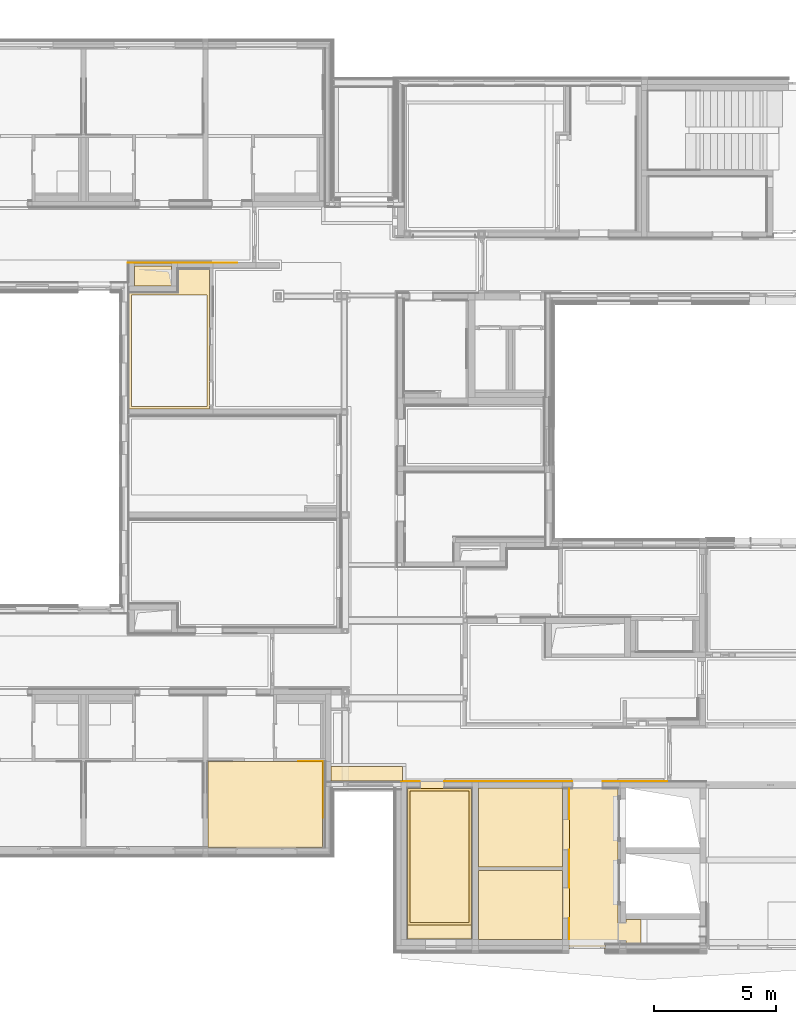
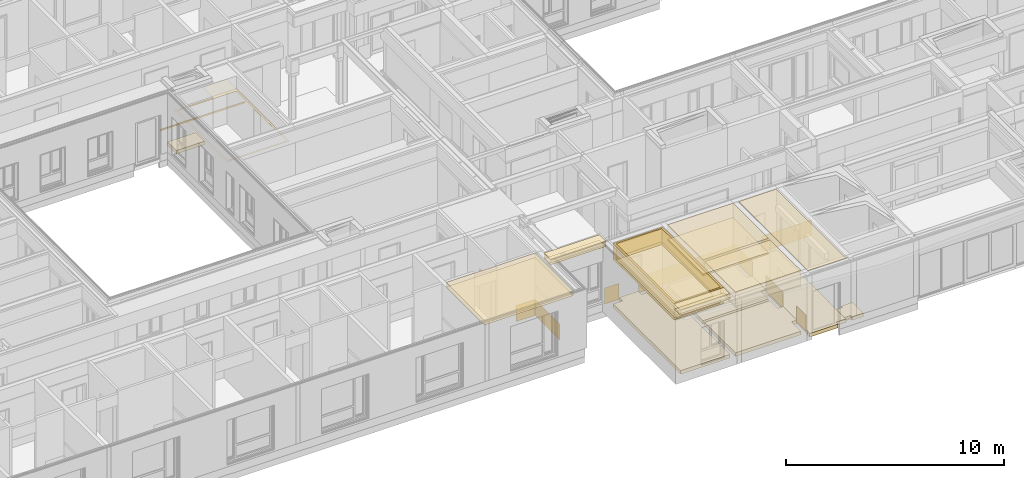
# One storey, part 165 of 207: 38 coverings.
"""IFC4 building model written with IfcOpenShell, lengths in metres."""

from ifc_helpers import new_model, entity, si_unit, converted_unit, derived_unit, frame, frame_2d, origin, origin_with_axes, place, context, subcontext, project, spatial, polyline, rectangle, outline, extrude, material, layer, layer_set, layer_usage, element, save


model = new_model("IFC4")

# Units and contexts
model_context = context("Model", 3, precision=1e-05, world=origin())
body_context = subcontext(model_context, "Body", "Model", "MODEL_VIEW")
ifc_project = project(units=[si_unit("LENGTHUNIT", "METRE"), si_unit("AREAUNIT", "SQUARE_METRE"), si_unit("VOLUMEUNIT", "CUBIC_METRE"), si_unit("MASSUNIT", "GRAM", prefix="KILO"), converted_unit("PLANEANGLEUNIT", "DEGREE", entity("IfcPlaneAngleMeasure", 0.0174532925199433), si_unit("PLANEANGLEUNIT", "RADIAN"), dimensions=[0, 0, 0, 0, 0, 0, 0]), derived_unit("THERMALTRANSMITTANCEUNIT", [(si_unit("POWERUNIT", "WATT"), 1), (si_unit("THERMODYNAMICTEMPERATUREUNIT", "KELVIN"), -1), (si_unit("LENGTHUNIT", "METRE"), -2)]), derived_unit("VOLUMETRICFLOWRATEUNIT", [(si_unit("LENGTHUNIT", "METRE"), 3), (converted_unit("TIMEUNIT", "hour", entity("IfcTimeMeasure", 3600.0), si_unit("TIMEUNIT", "SECOND"), dimensions=[0, 0, 1, 0, 0, 0, 0]), -1), (si_unit("LENGTHUNIT", "METRE"), -1)])], contexts=[model_context])

# Site, building, storey
site_placement = place(None, origin())
site = spatial("IfcSite", under=ifc_project, at=site_placement, Name="Psychiatrie Neubau Wunstorf", CompositionType="ELEMENT")
building_placement = place(site_placement, origin())
building = spatial("IfcBuilding", under=site, at=building_placement, Name="Neubau H2 Stationsgebäude", CompositionType="ELEMENT")
storey_placement = place(building_placement, frame((0.0, 0.0, -0.2)))
storey = spatial("IfcBuildingStorey", under=building, at=storey_placement, Name="H2 Ebene 0", CompositionType="ELEMENT", Elevation=-0.2)

# Covering
ifc_material_1 = material(Name="SE")
ifc_layer_1 = layer(ifc_material_1, 0.19)
ifc_layer_set_1 = layer_set([ifc_layer_1])
ifc_layer_usage_1 = layer_usage(ifc_layer_set_1, "AXIS3", "POSITIVE", 0.0)
covering_1_placement = place(storey_placement, frame((27.1, 20.875, 0.0)))
element("IfcCovering", 1, at=covering_1_placement, inside=storey, material=ifc_layer_usage_1, Name="Estrich", PredefinedType="FLOORING", context=body_context, shape_type="SweptSolid", body=[
    extrude(rectangle(XDim=0.811, YDim=1.5, at=frame_2d((0.75, -0.4055), x_axis=(0.0, -1.0))), frame((0.0, 0.811, 0.0), z_axis=(0.0, 0.0, 1.0), x_axis=(1.0, 0.0, 0.0)), (0.0, 0.0, 1.0), 0.19),
])

# Space
space_1_placement = place(storey_placement, frame((0.169000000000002, 21.036, 0.0)))
space_1 = spatial("IfcSpace", under=storey, at=space_1_placement, Name="WUN-H2-E00-F06", CompositionType="ELEMENT")

# Covering
ifc_material_2 = material(Name="97")
ifc_layer_2 = layer(ifc_material_2, 0.001)
ifc_layer_set_2 = layer_set([ifc_layer_2])
ifc_layer_usage_2 = layer_usage(ifc_layer_set_2, "AXIS3", "POSITIVE", 0.0)
covering_2_placement = place(space_1_placement, frame((26.651, 0.800000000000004, 0.8)))
element("IfcCovering", 2, at=covering_2_placement, inside=space_1, material=ifc_layer_usage_2, Name="Handlauf", PredefinedType="CLADDING", context=body_context, shape_type="SweptSolid", body=[
    extrude(rectangle(XDim=4.47800000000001, YDim=0.1, at=frame_2d((-2.239, 0.05), x_axis=(-1.0, 0.0))), frame((4.47800000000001, 0.0, 0.1), z_axis=(0.0, 1.0, 0.0), x_axis=(1.0, 0.0, 0.0)), (0.0, 0.0, 1.0), 0.001),
])

# Space
space_2_placement = place(storey_placement, frame((44.941004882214, -6.1210003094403, 0.0)))
space_2 = spatial("IfcSpace", under=storey, at=space_2_placement, Name="WUN-H2-E00-F02", CompositionType="ELEMENT")

# Coverings
ifc_material_3 = material(Name="Ku1")
ifc_layer_3 = layer(ifc_material_3, 0.2)
ifc_layer_set_3 = layer_set([ifc_layer_3])
ifc_layer_usage_3 = layer_usage(ifc_layer_set_3, "AXIS3", "POSITIVE", 0.0)
covering_3_placement = place(space_2_placement, frame((-0.0250000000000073, -0.185500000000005, 0.0)))
element("IfcCovering", 3, at=covering_3_placement, inside=space_2, material=ifc_layer_usage_3, Name="PVC Bahnenware Holzoptik", PredefinedType="FLOORING", context=body_context, shape_type="SweptSolid", body=[
    extrude(rectangle(XDim=1.50002570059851, YDim=0.185500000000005, at=frame_2d((-0.750012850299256, -0.0927500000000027), x_axis=(-1.0, 0.0))), frame((1.50002570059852, 0.185500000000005, 0.0), z_axis=(0.0, 0.0, 1.0), x_axis=(1.0, 0.0, 0.0)), (0.0, 0.0, 1.0), 0.2),
    extrude(rectangle(XDim=0.015, YDim=1.84, at=frame_2d((-0.0075, -0.92), x_axis=(-1.0, 0.0))), frame((2.03900000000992, 3.61651220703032, 0.0), z_axis=(0.0, 0.0, 1.0), x_axis=(1.0, 0.0, 0.0)), (0.0, 0.0, 1.0), 0.2),
    extrude(rectangle(XDim=0.0149999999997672, YDim=1.84, at=frame_2d((-0.00749999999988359, -0.92), x_axis=(-1.0, 0.0))), frame((2.03900000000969, 6.23914812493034, 0.0), z_axis=(0.0, 0.0, 1.0), x_axis=(1.0, 0.0, 0.0)), (0.0, 0.0, 1.0), 0.2),
    extrude(rectangle(XDim=1.99900000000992, YDim=6.3710003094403, at=frame_2d((0.999500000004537, 3.18550015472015), x_axis=(1.0, 0.0))), frame((0.0250000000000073, 0.185500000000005, 0.0), z_axis=(0.0, 0.0, 1.0), x_axis=(1.0, 0.0, 0.0)), (0.0, 0.0, 1.0), 0.2),
])
ifc_material_4 = material(Name="84")
ifc_layer_4 = layer(ifc_material_4, 0.001)
ifc_layer_set_4 = layer_set([ifc_layer_4])
ifc_layer_usage_4 = layer_usage(ifc_layer_set_4, "AXIS3", "POSITIVE", 0.0)
covering_4_placement = place(space_2_placement, frame((0.0, 0.175999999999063, 0.1)))
element("IfcCovering", 4, at=covering_4_placement, inside=space_2, material=ifc_layer_usage_4, Name="Acrobyn", PredefinedType="CLADDING", context=body_context, shape_type="SweptSolid", body=[
    extrude(rectangle(XDim=1.2625003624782, YDim=0.9, at=frame_2d((0.631250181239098, -0.45), x_axis=(1.0, 0.0))), frame((0.0, 6.19500030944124, 0.0), z_axis=(1.0, -3.89011483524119e-13, 4.04219867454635e-15), x_axis=(-3.89011483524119e-13, -1.0, 0.0)), (0.0, 0.0, 1.0), 0.001),
    extrude(rectangle(XDim=0.9, YDim=1.55, at=frame_2d((0.775, 0.45), x_axis=(0.0, 1.0))), frame((0.0, 3.67249994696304, 0.9), z_axis=(1.0, -3.87268711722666e-13, 4.04219867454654e-15), x_axis=(-3.87268711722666e-13, -1.0, 0.0)), (0.0, 0.0, 1.0), 0.001),
    extrude(rectangle(XDim=0.9, YDim=0.862499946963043, at=frame_2d((0.431249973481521, 0.45), x_axis=(0.0, 1.0))), frame((0.0, 0.862499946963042, 0.9), z_axis=(1.0, -3.88051096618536e-13, 8.0843973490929e-15), x_axis=(-3.88051096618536e-13, -1.0, 0.0)), (0.0, 0.0, 1.0), 0.001),
])
ifc_material_5 = material()
ifc_layer_5 = layer(ifc_material_5, 0.036)
ifc_layer_set_5 = layer_set([ifc_layer_5])
ifc_layer_usage_5 = layer_usage(ifc_layer_set_5, "AXIS3", "POSITIVE", 0.0)
covering_5_placement = place(space_2_placement, frame((0.0, 0.0, 3.6)))
element("IfcCovering", 5, at=covering_5_placement, inside=space_2, material=ifc_layer_usage_5, Name="Gipsfaserplatten 2-lagig (BSK)", PredefinedType="CEILING", context=body_context, shape_type="SweptSolid", body=[
    extrude(rectangle(XDim=1.99900000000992, YDim=6.3710003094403, at=frame_2d((-0.999500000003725, -3.18550015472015), x_axis=(-1.0, 0.0))), frame((1.99900000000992, 0.0, 0.0), z_axis=(0.0, 0.0, -1.0), x_axis=(1.0, 0.0, 0.0)), (0.0, 0.0, 1.0), 0.036),
])

# Space
space_3_placement = place(storey_placement, frame((32.083, 0.549, 0.0)))
space_3 = spatial("IfcSpace", under=storey, at=space_3_placement, Name="WUN-H2-E00-F03", CompositionType="ELEMENT")

# Coverings
ifc_material_6 = material(Name="84")
ifc_layer_6 = layer(ifc_material_6, 0.001)
ifc_layer_set_6 = layer_set([ifc_layer_6])
ifc_layer_usage_6 = layer_usage(ifc_layer_set_6, "AXIS3", "POSITIVE", 0.0)
covering_6_placement = place(space_3_placement, frame((5.94699999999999, 0.0, 0.1)))
element("IfcCovering", 6, at=covering_6_placement, inside=space_3, material=ifc_layer_usage_6, Name="Acrobyn", PredefinedType="CLADDING", context=body_context, shape_type="SweptSolid", body=[
    extrude(rectangle(XDim=5.245004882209, YDim=0.9, at=frame_2d((-2.6225024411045, 0.45), x_axis=(-1.0, 0.0))), frame((7.02500488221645, 0.0, 0.9), z_axis=(0.0, 1.0, 0.0), x_axis=(1.0, 0.0, 0.0)), (0.0, 0.0, 1.0), 0.001),
    extrude(rectangle(XDim=0.9, YDim=2.6496951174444, at=frame_2d((1.3248475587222, 0.45), x_axis=(0.0, 1.0))), frame((8.28500488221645, 0.0, 0.9), z_axis=(0.0, 1.0, 0.0), x_axis=(1.0, 0.0, 0.0)), (0.0, 0.0, 1.0), 0.001),
    extrude(rectangle(XDim=0.9, YDim=0.770000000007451, at=frame_2d((-0.385000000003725, -0.45), x_axis=(0.0, -1.0))), frame((0.770000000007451, 0.0, 0.0), z_axis=(0.0, 1.0, 0.0), x_axis=(1.0, 0.0, 0.0)), (0.0, 0.0, 1.0), 0.001),
])
ifc_material_7 = material()
ifc_layer_7 = layer(ifc_material_7, 0.036)
ifc_layer_set_7 = layer_set([ifc_layer_7])
ifc_layer_usage_7 = layer_usage(ifc_layer_set_7, "AXIS3", "POSITIVE", 0.0)
covering_7_placement = place(space_3_placement, frame((3.08149999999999, 0.0, 3.6)))
element("IfcCovering", 7, at=covering_7_placement, inside=space_3, material=ifc_layer_usage_7, Name="Gipsfaserplatten 2-lagig (BSK)", PredefinedType="CEILING", context=body_context, shape_type="SweptSolid", body=[
    extrude(rectangle(XDim=2.9355, YDim=0.600999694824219, at=frame_2d((1.46775, 0.30049984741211), x_axis=(1.0, 0.0))), frame((0.0, 0.600999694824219, 0.0), z_axis=(0.0, 0.0, -1.0), x_axis=(1.0, 0.0, 0.0)), (0.0, 0.0, 1.0), 0.036),
])
ifc_material_8 = material(Name="Installationshöhe")
ifc_layer_8 = layer(ifc_material_8, 0.164)
ifc_layer_set_8 = layer_set([ifc_layer_8])
ifc_layer_usage_8 = layer_usage(ifc_layer_set_8, "AXIS3", "POSITIVE", 0.0)
covering_8_placement = place(space_3_placement, frame((3.08149999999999, 0.0, 3.564)))
element("IfcCovering", 8, at=covering_8_placement, inside=space_3, material=ifc_layer_usage_8, Name="Gipsfaserplatten 2-lagig (BSK)", PredefinedType="CEILING", context=body_context, shape_type="SweptSolid", body=[
    extrude(rectangle(XDim=2.9355, YDim=0.600999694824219, at=frame_2d((1.46775, 0.30049984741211), x_axis=(1.0, 0.0))), frame((0.0, 0.600999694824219, 0.0), z_axis=(0.0, 0.0, -1.0), x_axis=(1.0, 0.0, 0.0)), (0.0, 0.0, 1.0), 0.164),
])
ifc_material_9 = material(Name="A1")
ifc_layer_9 = layer(ifc_material_9, 0.1)
ifc_layer_set_9 = layer_set([ifc_layer_9])
ifc_layer_usage_9 = layer_usage(ifc_layer_set_9, "AXIS3", "POSITIVE", 0.0)
covering_9_placement = place(space_3_placement, frame((3.08149999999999, 0.0, 3.4)))
element("IfcCovering", 9, at=covering_9_placement, inside=space_3, material=ifc_layer_usage_9, Name="Gipsfaserplatten 2-lagig (BSK)", PredefinedType="CEILING", context=body_context, shape_type="SweptSolid", body=[
    extrude(rectangle(XDim=2.9355, YDim=0.600999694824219, at=frame_2d((1.46775, 0.30049984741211), x_axis=(1.0, 0.0))), frame((0.0, 0.600999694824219, 0.0), z_axis=(0.0, 0.0, -1.0), x_axis=(1.0, 0.0, 0.0)), (0.0, 0.0, 1.0), 0.1),
])
ifc_material_10 = material(Name="D1")
ifc_layer_10 = layer(ifc_material_10, 0.001)
ifc_layer_set_10 = layer_set([ifc_layer_10])
ifc_layer_usage_10 = layer_usage(ifc_layer_set_10, "AXIS3", "POSITIVE", 0.0)
covering_10_placement = place(space_3_placement, frame((3.08149999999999, 0.0, 3.3)))
element("IfcCovering", 10, at=covering_10_placement, inside=space_3, material=ifc_layer_usage_10, Name="Gipsfaserplatten 2-lagig (BSK)", PredefinedType="CEILING", context=body_context, shape_type="SweptSolid", body=[
    extrude(rectangle(XDim=2.9355, YDim=0.600999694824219, at=frame_2d((1.46775, 0.30049984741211), x_axis=(1.0, 0.0))), frame((0.0, 0.600999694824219, 0.0), z_axis=(0.0, 0.0, -1.0), x_axis=(1.0, 0.0, 0.0)), (0.0, 0.0, 1.0), 0.001),
])

# Space
space_4_placement = place(storey_placement, frame((41.2, -2.97250036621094, 0.0)))
space_4 = spatial("IfcSpace", under=storey, at=space_4_placement, Name="WUN-H2-E00-002", CompositionType="ELEMENT")

# Coverings
ifc_material_11 = material()
ifc_layer_11 = layer(ifc_material_11, 0.036)
ifc_layer_set_11 = layer_set([ifc_layer_11])
ifc_layer_usage_11 = layer_usage(ifc_layer_set_11, "AXIS3", "POSITIVE", 0.0)
covering_11_placement = place(space_4_placement, frame((0.0, 0.0, 3.6)))
element("IfcCovering", 11, at=covering_11_placement, inside=space_4, material=ifc_layer_usage_11, Name="Gipsfaserplatten 2-lagig (BSK)", PredefinedType="CEILING", context=body_context, shape_type="SweptSolid", body=[
    extrude(rectangle(XDim=3.24750036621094, YDim=3.46600488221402, at=frame_2d((-1.73300244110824, 1.62375018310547), x_axis=(-7.59522510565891e-13, 1.0))), frame((3.46600488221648, 3.24750036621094, 0.0), z_axis=(0.0, 0.0, -1.0), x_axis=(1.0, 0.0, 0.0)), (0.0, 0.0, 1.0), 0.036),
])
ifc_material_12 = material(Name="Installationshöhe")
ifc_layer_12 = layer(ifc_material_12, 0.764)
ifc_layer_set_12 = layer_set([ifc_layer_12])
ifc_layer_usage_12 = layer_usage(ifc_layer_set_12, "AXIS3", "POSITIVE", 0.0)
covering_12_placement = place(space_4_placement, frame((0.0, 0.0, 3.564)))
element("IfcCovering", 12, at=covering_12_placement, inside=space_4, material=ifc_layer_usage_12, Name="Gipsfaserplatten 2-lagig (BSK)", PredefinedType="CEILING", context=body_context, shape_type="SweptSolid", body=[
    extrude(rectangle(XDim=3.24750036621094, YDim=3.46600488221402, at=frame_2d((-1.73300244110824, 1.62375018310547), x_axis=(-7.59522510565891e-13, 1.0))), frame((3.46600488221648, 3.24750036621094, 0.0), z_axis=(0.0, 0.0, -1.0), x_axis=(1.0, 0.0, 0.0)), (0.0, 0.0, 1.0), 0.764),
])
ifc_material_13 = material(Name="E3")
ifc_layer_13 = layer(ifc_material_13, 0.1)
ifc_layer_set_13 = layer_set([ifc_layer_13])
ifc_layer_usage_13 = layer_usage(ifc_layer_set_13, "AXIS3", "POSITIVE", 0.0)
covering_13_placement = place(space_4_placement, frame((0.0, 0.0, 2.8)))
element("IfcCovering", 13, at=covering_13_placement, inside=space_4, material=ifc_layer_usage_13, Name="Rasterdecke", PredefinedType="CEILING", context=body_context, shape_type="SweptSolid", body=[
    extrude(rectangle(XDim=3.24750036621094, YDim=3.46600488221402, at=frame_2d((-1.73300244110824, 1.62375018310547), x_axis=(-7.59522510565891e-13, 1.0))), frame((3.46600488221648, 3.24750036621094, 0.0), z_axis=(0.0, 0.0, -1.0), x_axis=(1.0, 0.0, 0.0)), (0.0, 0.0, 1.0), 0.1),
])
ifc_material_14 = material(Name="Ku2")
ifc_layer_14 = layer(ifc_material_14, 0.2)
ifc_layer_set_14 = layer_set([ifc_layer_14])
ifc_layer_usage_14 = layer_usage(ifc_layer_set_14, "AXIS3", "POSITIVE", 0.0)
covering_14_placement = place(space_4_placement, origin())
element("IfcCovering", 14, at=covering_14_placement, inside=space_4, material=ifc_layer_usage_14, Name="PVC Bahnenware Uni", PredefinedType="FLOORING", context=body_context, shape_type="SweptSolid", body=[
    extrude(rectangle(XDim=0.275, YDim=1.26, at=frame_2d((0.1375, 0.63), x_axis=(1.0, 0.0))), frame((3.46600488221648, 0.700000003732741, 0.0), z_axis=(0.0, 0.0, 1.0), x_axis=(1.0, 0.0, 0.0)), (0.0, 0.0, 1.0), 0.2),
    extrude(rectangle(XDim=3.24750036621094, YDim=3.46600488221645, at=frame_2d((-1.73300244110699, 1.62375018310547), x_axis=(7.59522510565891e-13, 1.0))), frame((3.46600488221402, 0.0, 0.0), z_axis=(0.0, 0.0, 1.0), x_axis=(1.0, 0.0, 0.0)), (0.0, 0.0, 1.0), 0.2),
])

# Space
space_5_placement = place(storey_placement, frame((41.2, -5.945000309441, 0.0)))
space_5 = spatial("IfcSpace", under=storey, at=space_5_placement, Name="WUN-H2-E00-001", CompositionType="ELEMENT")

# Coverings
ifc_material_15 = material()
ifc_layer_15 = layer(ifc_material_15, 0.036)
ifc_layer_set_15 = layer_set([ifc_layer_15])
ifc_layer_usage_15 = layer_usage(ifc_layer_set_15, "AXIS3", "POSITIVE", 0.0)
covering_15_placement = place(space_5_placement, frame((0.0, 0.0, 3.6)))
element("IfcCovering", 15, at=covering_15_placement, inside=space_5, material=ifc_layer_usage_15, Name="Gipsfaserplatten 2-lagig (BSK)", PredefinedType="CEILING", context=body_context, shape_type="SweptSolid", body=[
    extrude(rectangle(XDim=2.82249994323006, YDim=3.46600488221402, at=frame_2d((-1.73300244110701, 1.41124997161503), x_axis=(0.0, 1.0))), frame((3.46600488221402, 2.82249994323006, 0.0), z_axis=(0.0, 0.0, -1.0), x_axis=(1.0, 0.0, 0.0)), (0.0, 0.0, 1.0), 0.036),
])
ifc_material_16 = material(Name="Installationshöhe")
ifc_layer_16 = layer(ifc_material_16, 0.764)
ifc_layer_set_16 = layer_set([ifc_layer_16])
ifc_layer_usage_16 = layer_usage(ifc_layer_set_16, "AXIS3", "POSITIVE", 0.0)
covering_16_placement = place(space_5_placement, frame((0.0, 0.0, 3.564)))
element("IfcCovering", 16, at=covering_16_placement, inside=space_5, material=ifc_layer_usage_16, Name="Gipsfaserplatten 2-lagig (BSK)", PredefinedType="CEILING", context=body_context, shape_type="SweptSolid", body=[
    extrude(rectangle(XDim=2.82249994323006, YDim=3.46600488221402, at=frame_2d((-1.73300244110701, 1.41124997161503), x_axis=(0.0, 1.0))), frame((3.46600488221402, 2.82249994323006, 0.0), z_axis=(0.0, 0.0, -1.0), x_axis=(1.0, 0.0, 0.0)), (0.0, 0.0, 1.0), 0.764),
])
ifc_material_17 = material(Name="E3")
ifc_layer_17 = layer(ifc_material_17, 0.1)
ifc_layer_set_17 = layer_set([ifc_layer_17])
ifc_layer_usage_17 = layer_usage(ifc_layer_set_17, "AXIS3", "POSITIVE", 0.0)
covering_17_placement = place(space_5_placement, frame((0.0, 0.0, 2.8)))
element("IfcCovering", 17, at=covering_17_placement, inside=space_5, material=ifc_layer_usage_17, Name="Rasterdecke", PredefinedType="CEILING", context=body_context, shape_type="SweptSolid", body=[
    extrude(rectangle(XDim=2.82249994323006, YDim=3.46600488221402, at=frame_2d((-1.73300244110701, 1.41124997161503), x_axis=(0.0, 1.0))), frame((3.46600488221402, 2.82249994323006, 0.0), z_axis=(0.0, 0.0, -1.0), x_axis=(1.0, 0.0, 0.0)), (0.0, 0.0, 1.0), 0.1),
])
ifc_material_18 = material(Name="Ku2")
ifc_layer_18 = layer(ifc_material_18, 0.2)
ifc_layer_set_18 = layer_set([ifc_layer_18])
ifc_layer_usage_18 = layer_usage(ifc_layer_set_18, "AXIS3", "POSITIVE", 0.0)
covering_18_placement = place(space_5_placement, origin())
element("IfcCovering", 18, at=covering_18_placement, inside=space_5, material=ifc_layer_usage_18, Name="PVC Bahnenware Uni", PredefinedType="FLOORING", context=body_context, shape_type="SweptSolid", body=[
    extrude(rectangle(XDim=0.275, YDim=1.26, at=frame_2d((0.1375, 0.63), x_axis=(1.0, 0.0))), frame((3.46600488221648, 0.862499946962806, 0.0), z_axis=(0.0, 0.0, 1.0), x_axis=(1.0, 0.0, 0.0)), (0.0, 0.0, 1.0), 0.2),
    extrude(rectangle(XDim=2.82249994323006, YDim=3.46600488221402, at=frame_2d((-1.73300244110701, 1.41124997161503), x_axis=(0.0, 1.0))), frame((3.46600488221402, 0.0, 0.0), z_axis=(0.0, 0.0, 1.0), x_axis=(1.0, 0.0, 0.0)), (0.0, 0.0, 1.0), 0.2),
])

# Space
space_6_placement = place(storey_placement, frame((26.861, 15.8324990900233, 0.0)))
space_6 = spatial("IfcSpace", under=storey, at=space_6_placement, Name="WUN-H2-E00-007", CompositionType="ELEMENT")

# Covering
ifc_material_19 = material(Name="D1")
ifc_layer_19 = layer(ifc_material_19, 0.001)
ifc_layer_set_19 = layer_set([ifc_layer_19])
ifc_layer_usage_19 = layer_usage(ifc_layer_set_19, "AXIS3", "POSITIVE", 0.0)
covering_19_placement = place(space_6_placement, frame((0.0, 0.0, 2.7)))
element("IfcCovering", 19, at=covering_19_placement, inside=space_6, material=ifc_layer_usage_19, Name="Gipsfaserplatten 2-lagig (BSK)", PredefinedType="CEILING", context=body_context, shape_type="SweptSolid", body=[
    extrude(outline(polyline([(0.0, 5.73300090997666), (0.0, 0.970499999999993), (2.01900000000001, 0.970499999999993), (2.01899999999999, 0.00150000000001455), (3.30584904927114, 0.0), (3.30584904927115, 5.73300090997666), (0.0, 5.73300090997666)]), holes=[polyline([(3.20584904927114, 5.63300090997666), (3.20584904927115, 1.07049999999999), (0.1, 1.07049999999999), (0.100000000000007, 5.63300090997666), (3.20584904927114, 5.63300090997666)])]), frame((0.0, 5.73300090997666, 0.0), z_axis=(0.0, 0.0, -1.0), x_axis=(1.0, 0.0, 0.0)), (0.0, 0.0, 1.0), 0.001),
])

# Space
space_7_placement = place(storey_placement, frame((30.1, -2.16399999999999, 0.0)))
space_7 = spatial("IfcSpace", under=storey, at=space_7_placement, Name="WUN-H2-E00-019", CompositionType="ELEMENT")

# Coverings
ifc_material_20 = material(Name="84")
ifc_layer_20 = layer(ifc_material_20, 0.001)
ifc_layer_set_20 = layer_set([ifc_layer_20])
ifc_layer_usage_20 = layer_usage(ifc_layer_set_20, "AXIS3", "POSITIVE", 0.0)
covering_20_placement = place(space_7_placement, frame((3.714, 1.22274957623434, 0.1)))
element("IfcCovering", 20, at=covering_20_placement, inside=space_7, material=ifc_layer_usage_20, Name="Acrobyn", PredefinedType="CLADDING", context=body_context, shape_type="SweptSolid", body=[
    extrude(rectangle(XDim=0.9, YDim=1.0, at=frame_2d((-0.5, -0.45), x_axis=(0.0, -1.0))), frame((0.0, 2.3, 0.0), z_axis=(4.54747350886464e-16, -1.0, 0.0), x_axis=(-1.0, -4.54747350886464e-16, 0.0)), (0.0, 0.0, 1.0), 0.001),
    extrude(rectangle(XDim=0.9, YDim=2.3, at=frame_2d((-1.15, -0.45), x_axis=(0.0, -1.0))), frame((1.0, 2.3, 0.0), z_axis=(-1.0, 0.0, 0.0), x_axis=(0.0, 1.0, 0.0)), (0.0, 0.0, 1.0), 0.001),
])
ifc_material_21 = material()
ifc_layer_21 = layer(ifc_material_21, 0.036)
ifc_layer_set_21 = layer_set([ifc_layer_21])
ifc_layer_usage_21 = layer_usage(ifc_layer_set_21, "AXIS3", "POSITIVE", 0.0)
covering_21_placement = place(space_7_placement, frame((0.0, 0.0, 3.6)))
element("IfcCovering", 21, at=covering_21_placement, inside=space_7, material=ifc_layer_usage_21, Name="Gipsfaserplatten 2-lagig (BSK)", PredefinedType="CEILING", context=body_context, shape_type="SweptSolid", body=[
    extrude(rectangle(XDim=3.5227496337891, YDim=4.714, at=frame_2d((-2.357, 1.76137481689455), x_axis=(0.0, 1.0))), frame((4.714, 3.5227496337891, 0.0), z_axis=(0.0, 0.0, -1.0), x_axis=(1.0, 0.0, 0.0)), (0.0, 0.0, 1.0), 0.036),
])
ifc_material_22 = material(Name="Installationshöhe")
ifc_layer_22 = layer(ifc_material_22, 0.114)
ifc_layer_set_22 = layer_set([ifc_layer_22])
ifc_layer_usage_22 = layer_usage(ifc_layer_set_22, "AXIS3", "POSITIVE", 0.0)
covering_22_placement = place(space_7_placement, frame((0.0, 0.0, 3.564)))
element("IfcCovering", 22, at=covering_22_placement, inside=space_7, material=ifc_layer_usage_22, Name="Gipsfaserplatten 2-lagig (BSK)", PredefinedType="CEILING", context=body_context, shape_type="SweptSolid", body=[
    extrude(rectangle(XDim=3.5227496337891, YDim=4.714, at=frame_2d((-2.357, 1.76137481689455), x_axis=(0.0, 1.0))), frame((4.714, 3.5227496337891, 0.0), z_axis=(0.0, 0.0, -1.0), x_axis=(1.0, 0.0, 0.0)), (0.0, 0.0, 1.0), 0.114),
])
ifc_material_23 = material(Name="A1")
ifc_layer_23 = layer(ifc_material_23, 0.1)
ifc_layer_set_23 = layer_set([ifc_layer_23])
ifc_layer_usage_23 = layer_usage(ifc_layer_set_23, "AXIS3", "POSITIVE", 0.0)
covering_23_placement = place(space_7_placement, frame((0.0, 0.0, 3.45)))
element("IfcCovering", 23, at=covering_23_placement, inside=space_7, material=ifc_layer_usage_23, Name="Gipsfaserplatten 2-lagig (BSK)", PredefinedType="CEILING", context=body_context, shape_type="SweptSolid", body=[
    extrude(rectangle(XDim=3.5227496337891, YDim=4.714, at=frame_2d((-2.357, 1.76137481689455), x_axis=(0.0, 1.0))), frame((4.714, 3.5227496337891, 0.0), z_axis=(0.0, 0.0, -1.0), x_axis=(1.0, 0.0, 0.0)), (0.0, 0.0, 1.0), 0.1),
])
ifc_material_24 = material(Name="D1")
ifc_layer_24 = layer(ifc_material_24, 0.001)
ifc_layer_set_24 = layer_set([ifc_layer_24])
ifc_layer_usage_24 = layer_usage(ifc_layer_set_24, "AXIS3", "POSITIVE", 0.0)
covering_24_placement = place(space_7_placement, frame((0.0, 0.0, 3.35)))
element("IfcCovering", 24, at=covering_24_placement, inside=space_7, material=ifc_layer_usage_24, Name="Gipsfaserplatten 2-lagig (BSK)", PredefinedType="CEILING", context=body_context, shape_type="SweptSolid", body=[
    extrude(rectangle(XDim=3.5227496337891, YDim=4.714, at=frame_2d((-2.357, 1.76137481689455), x_axis=(0.0, 1.0))), frame((4.714, 3.5227496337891, 0.0), z_axis=(0.0, 0.0, -1.0), x_axis=(1.0, 0.0, 0.0)), (0.0, 0.0, 1.0), 0.001),
])

# Space
space_8_placement = place(storey_placement, frame((38.304, -5.921000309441, 0.0)))
space_8 = spatial("IfcSpace", under=storey, at=space_8_placement, Name="WUN-H2-E00-003", CompositionType="ELEMENT")

# Coverings
ifc_material_25 = material(Name="Ku1")
ifc_layer_25 = layer(ifc_material_25, 0.2)
ifc_layer_set_25 = layer_set([ifc_layer_25])
ifc_layer_usage_25 = layer_usage(ifc_layer_set_25, "AXIS3", "POSITIVE", 0.0)
covering_25_placement = place(space_8_placement, origin())
element("IfcCovering", 25, at=covering_25_placement, inside=space_8, material=ifc_layer_usage_25, Name="PVC Bahnenware Holzoptik", PredefinedType="FLOORING", context=body_context, shape_type="SweptSolid", body=[
    extrude(rectangle(XDim=1.01, YDim=0.298, at=frame_2d((0.505, 0.149), x_axis=(1.0, 0.0))), frame((0.496000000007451, 6.172000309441, 0.0), z_axis=(0.0, 0.0, 1.0), x_axis=(1.0, 0.0, 0.0)), (0.0, 0.0, 1.0), 0.2),
    extrude(outline(polyline([(0.0, 0.0), (2.62099999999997, 0.0), (2.621, 6.172000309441), (0.0, 6.17199755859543), (0.0, 0.0)])), origin_with_axes(), (0.0, 0.0, 1.0), 0.2),
])
ifc_material_26 = material()
ifc_layer_26 = layer(ifc_material_26, 0.036)
ifc_layer_set_26 = layer_set([ifc_layer_26])
ifc_layer_usage_26 = layer_usage(ifc_layer_set_26, "AXIS3", "POSITIVE", 0.0)
covering_26_placement = place(space_8_placement, frame((0.1, 0.675999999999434, 3.6)))
element("IfcCovering", 26, at=covering_26_placement, inside=space_8, material=ifc_layer_usage_26, Name="Gipsfaserplatten 2-lagig (BSK)", PredefinedType="CEILING", context=body_context, shape_type="SweptSolid", body=[
    extrude(rectangle(XDim=2.421, YDim=5.39599755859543, at=frame_2d((1.21049999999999, 2.697998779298), x_axis=(1.0, 2.34417469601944e-13))), frame((0.0, 5.395997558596, 0.0), z_axis=(0.0, 0.0, -1.0), x_axis=(1.0, 0.0, 0.0)), (0.0, 0.0, 1.0), 0.036),
])
ifc_material_27 = material(Name="Installationshöhe")
ifc_layer_27 = layer(ifc_material_27, 0.714)
ifc_layer_set_27 = layer_set([ifc_layer_27])
ifc_layer_usage_27 = layer_usage(ifc_layer_set_27, "AXIS3", "POSITIVE", 0.0)
covering_27_placement = place(space_8_placement, frame((0.1, 0.675999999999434, 3.564)))
element("IfcCovering", 27, at=covering_27_placement, inside=space_8, material=ifc_layer_usage_27, Name="Gipsfaserplatten 2-lagig (BSK)", PredefinedType="CEILING", context=body_context, shape_type="SweptSolid", body=[
    extrude(rectangle(XDim=2.421, YDim=5.39599755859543, at=frame_2d((1.21049999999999, 2.697998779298), x_axis=(1.0, 2.34417469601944e-13))), frame((0.0, 5.395997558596, 0.0), z_axis=(0.0, 0.0, -1.0), x_axis=(1.0, 0.0, 0.0)), (0.0, 0.0, 1.0), 0.714),
])
ifc_material_28 = material(Name="Aa")
ifc_layer_28 = layer(ifc_material_28, 0.15)
ifc_layer_set_28 = layer_set([ifc_layer_28])
ifc_layer_usage_28 = layer_usage(ifc_layer_set_28, "AXIS3", "POSITIVE", 0.0)
covering_28_placement = place(space_8_placement, frame((0.1, 0.675999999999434, 2.85)))
element("IfcCovering", 28, at=covering_28_placement, inside=space_8, material=ifc_layer_usage_28, Name="Akustikdecke gelocht", PredefinedType="CEILING", context=body_context, shape_type="SweptSolid", body=[
    extrude(rectangle(XDim=2.421, YDim=5.39599755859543, at=frame_2d((1.21049999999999, 2.697998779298), x_axis=(1.0, 2.34417469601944e-13))), frame((0.0, 5.395997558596, 0.0), z_axis=(0.0, 0.0, -1.0), x_axis=(1.0, 0.0, 0.0)), (0.0, 0.0, 1.0), 0.15),
])
ifc_material_29 = material(Name="D1")
ifc_layer_29 = layer(ifc_material_29, 0.001)
ifc_layer_set_29 = layer_set([ifc_layer_29])
ifc_layer_usage_29 = layer_usage(ifc_layer_set_29, "AXIS3", "POSITIVE", 0.0)
covering_29_placement = place(space_8_placement, frame((0.1, 0.675999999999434, 2.7)))
element("IfcCovering", 29, at=covering_29_placement, inside=space_8, material=ifc_layer_usage_29, Name="Gipsfaserplatten 2-lagig (BSK)", PredefinedType="CEILING", context=body_context, shape_type="SweptSolid", body=[
    extrude(rectangle(XDim=2.421, YDim=5.39599755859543, at=frame_2d((1.21049999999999, 2.697998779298), x_axis=(1.0, 2.34417469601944e-13))), frame((0.0, 5.395997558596, 0.0), z_axis=(0.0, 0.0, -1.0), x_axis=(1.0, 0.0, 0.0)), (0.0, 0.0, 1.0), 0.001),
])
ifc_material_30 = material()
ifc_layer_30 = layer(ifc_material_30, 0.036)
ifc_layer_set_30 = layer_set([ifc_layer_30])
ifc_layer_usage_30 = layer_usage(ifc_layer_set_30, "AXIS3", "POSITIVE", 0.0)
covering_30_placement = place(space_8_placement, frame((0.0, 0.0, 3.6)))
element("IfcCovering", 30, at=covering_30_placement, inside=space_8, material=ifc_layer_usage_30, Name="Gipsfaserplatten 2-lagig (BSK)", PredefinedType="CEILING", context=body_context, shape_type="SweptSolid", body=[
    extrude(rectangle(XDim=2.62099999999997, YDim=0.575999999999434, at=frame_2d((-1.31049999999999, -0.288000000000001), x_axis=(-1.0, -2.16529833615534e-13))), frame((2.62099999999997, 0.0, 0.0), z_axis=(0.0, 0.0, -1.0), x_axis=(1.0, 0.0, 0.0)), (0.0, 0.0, 1.0), 0.036),
])
ifc_material_31 = material(Name="Installationshöhe")
ifc_layer_31 = layer(ifc_material_31, 0.164)
ifc_layer_set_31 = layer_set([ifc_layer_31])
ifc_layer_usage_31 = layer_usage(ifc_layer_set_31, "AXIS3", "POSITIVE", 0.0)
covering_31_placement = place(space_8_placement, frame((0.0, 0.0, 3.564)))
element("IfcCovering", 31, at=covering_31_placement, inside=space_8, material=ifc_layer_usage_31, Name="Gipsfaserplatten 2-lagig (BSK)", PredefinedType="CEILING", context=body_context, shape_type="SweptSolid", body=[
    extrude(rectangle(XDim=2.62099999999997, YDim=0.575999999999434, at=frame_2d((-1.31049999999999, -0.288000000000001), x_axis=(-1.0, -2.16529833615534e-13))), frame((2.62099999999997, 0.0, 0.0), z_axis=(0.0, 0.0, -1.0), x_axis=(1.0, 0.0, 0.0)), (0.0, 0.0, 1.0), 0.164),
])
ifc_material_32 = material(Name="A1")
ifc_layer_32 = layer(ifc_material_32, 0.1)
ifc_layer_set_32 = layer_set([ifc_layer_32])
ifc_layer_usage_32 = layer_usage(ifc_layer_set_32, "AXIS3", "POSITIVE", 0.0)
covering_32_placement = place(space_8_placement, frame((0.0, 0.0, 3.4)))
element("IfcCovering", 32, at=covering_32_placement, inside=space_8, material=ifc_layer_usage_32, Name="Gipsfaserplatten 2-lagig (BSK)", PredefinedType="CEILING", context=body_context, shape_type="SweptSolid", body=[
    extrude(rectangle(XDim=2.62099999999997, YDim=0.575999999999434, at=frame_2d((-1.31049999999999, -0.288000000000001), x_axis=(-1.0, -2.16529833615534e-13))), frame((2.62099999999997, 0.0, 0.0), z_axis=(0.0, 0.0, -1.0), x_axis=(1.0, 0.0, 0.0)), (0.0, 0.0, 1.0), 0.1),
])
ifc_material_33 = material(Name="D1")
ifc_layer_33 = layer(ifc_material_33, 0.001)
ifc_layer_set_33 = layer_set([ifc_layer_33])
ifc_layer_usage_33 = layer_usage(ifc_layer_set_33, "AXIS3", "POSITIVE", 0.0)
covering_33_placement = place(space_8_placement, frame((0.0, 0.0, 3.3)))
element("IfcCovering", 33, at=covering_33_placement, inside=space_8, material=ifc_layer_usage_33, Name="Gipsfaserplatten 2-lagig (BSK)", PredefinedType="CEILING", context=body_context, shape_type="SweptSolid", body=[
    extrude(rectangle(XDim=2.62099999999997, YDim=0.575999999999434, at=frame_2d((-1.31049999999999, -0.288000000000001), x_axis=(-1.0, -2.16529833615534e-13))), frame((2.62099999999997, 0.0, 0.0), z_axis=(0.0, 0.0, -1.0), x_axis=(1.0, 0.0, 0.0)), (0.0, 0.0, 1.0), 0.001),
])
ifc_material_34 = material()
ifc_layer_34 = layer(ifc_material_34, 0.036)
ifc_layer_set_34 = layer_set([ifc_layer_34])
ifc_layer_usage_34 = layer_usage(ifc_layer_set_34, "AXIS3", "POSITIVE", 0.0)
covering_34_placement = place(space_8_placement, frame((0.0, 0.575999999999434, 3.6)))
element("IfcCovering", 34, at=covering_34_placement, inside=space_8, material=ifc_layer_usage_34, Name="Gipsfaserplatten 2-lagig (BSK)", PredefinedType="CEILING", context=body_context, shape_type="SweptSolid", body=[
    extrude(outline(polyline([(2.621, 0.0), (2.62099999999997, 5.59600030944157), (0.0, 5.596000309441), (0.0, 2.75084556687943e-06), (2.621, 0.0)]), holes=[polyline([(0.1, 5.496000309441), (2.52099999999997, 5.49600030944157), (2.52099999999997, 0.100002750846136), (0.1, 0.100002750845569), (0.1, 5.496000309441)])]), frame((0.0, 5.59600030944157, 0.0), z_axis=(0.0, 0.0, -1.0), x_axis=(1.0, 0.0, 0.0)), (0.0, 0.0, 1.0), 0.036),
])
ifc_material_35 = material(Name="Installationshöhe")
ifc_layer_35 = layer(ifc_material_35, 0.714)
ifc_layer_set_35 = layer_set([ifc_layer_35])
ifc_layer_usage_35 = layer_usage(ifc_layer_set_35, "AXIS3", "POSITIVE", 0.0)
covering_35_placement = place(space_8_placement, frame((0.0, 0.575999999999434, 3.564)))
element("IfcCovering", 35, at=covering_35_placement, inside=space_8, material=ifc_layer_usage_35, Name="Gipsfaserplatten 2-lagig (BSK)", PredefinedType="CEILING", context=body_context, shape_type="SweptSolid", body=[
    extrude(outline(polyline([(2.621, 0.0), (2.62099999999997, 5.59600030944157), (0.0, 5.596000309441), (0.0, 2.75084556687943e-06), (2.621, 0.0)]), holes=[polyline([(0.1, 5.496000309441), (2.52099999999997, 5.49600030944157), (2.52099999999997, 0.100002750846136), (0.1, 0.100002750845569), (0.1, 5.496000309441)])]), frame((0.0, 5.59600030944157, 0.0), z_axis=(0.0, 0.0, -1.0), x_axis=(1.0, 0.0, 0.0)), (0.0, 0.0, 1.0), 0.714),
])
ifc_material_36 = material(Name="A1")
ifc_layer_36 = layer(ifc_material_36, 0.15)
ifc_layer_set_36 = layer_set([ifc_layer_36])
ifc_layer_usage_36 = layer_usage(ifc_layer_set_36, "AXIS3", "POSITIVE", 0.0)
covering_36_placement = place(space_8_placement, frame((0.0, 0.575999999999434, 2.85)))
element("IfcCovering", 36, at=covering_36_placement, inside=space_8, material=ifc_layer_usage_36, Name="Gipsfaserplatten 2-lagig (BSK)", PredefinedType="CEILING", context=body_context, shape_type="SweptSolid", body=[
    extrude(outline(polyline([(2.621, 0.0), (2.62099999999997, 5.59600030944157), (0.0, 5.596000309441), (0.0, 2.75084556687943e-06), (2.621, 0.0)]), holes=[polyline([(0.1, 5.496000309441), (2.52099999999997, 5.49600030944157), (2.52099999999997, 0.100002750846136), (0.1, 0.100002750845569), (0.1, 5.496000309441)])]), frame((0.0, 5.59600030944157, 0.0), z_axis=(0.0, 0.0, -1.0), x_axis=(1.0, 0.0, 0.0)), (0.0, 0.0, 1.0), 0.15),
])
ifc_material_37 = material(Name="D1")
ifc_layer_37 = layer(ifc_material_37, 0.001)
ifc_layer_set_37 = layer_set([ifc_layer_37])
ifc_layer_usage_37 = layer_usage(ifc_layer_set_37, "AXIS3", "POSITIVE", 0.0)
covering_37_placement = place(space_8_placement, frame((0.0, 0.575999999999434, 2.7)))
element("IfcCovering", 37, at=covering_37_placement, inside=space_8, material=ifc_layer_usage_37, Name="Gipsfaserplatten 2-lagig (BSK)", PredefinedType="CEILING", context=body_context, shape_type="SweptSolid", body=[
    extrude(outline(polyline([(2.621, 0.0), (2.62099999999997, 5.59600030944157), (0.0, 5.596000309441), (0.0, 2.75084556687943e-06), (2.621, 0.0)]), holes=[polyline([(0.1, 5.496000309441), (2.52099999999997, 5.49600030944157), (2.52099999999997, 0.100002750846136), (0.1, 0.100002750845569), (0.1, 5.496000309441)])]), frame((0.0, 5.59600030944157, 0.0), z_axis=(0.0, 0.0, -1.0), x_axis=(1.0, 0.0, 0.0)), (0.0, 0.0, 1.0), 0.001),
])

# Space
space_9_placement = place(storey_placement, frame((47.2700048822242, -6.1210003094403, 0.0)))
space_9 = spatial("IfcSpace", under=storey, at=space_9_placement, Name="WUN-H2-E00-S01", CompositionType="ELEMENT")

# Covering
ifc_material_38 = material(Name="Gitterrost")
ifc_layer_38 = layer(ifc_material_38, 0.2)
ifc_layer_set_38 = layer_set([ifc_layer_38])
ifc_layer_usage_38 = layer_usage(ifc_layer_set_38, "AXIS3", "POSITIVE", 0.0)
covering_38_placement = place(space_9_placement, frame((-0.33000000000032, 0.0, 0.0)))
element("IfcCovering", 38, at=covering_38_placement, inside=space_9, material=ifc_layer_usage_38, Name="Ink . Installationsbau 10cm", PredefinedType="FLOORING", context=body_context, shape_type="SweptSolid", body=[
    extrude(rectangle(XDim=0.33, YDim=0.76, at=frame_2d((-0.165, -0.38), x_axis=(-1.0, 0.0))), frame((0.33, 0.876999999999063, 0.0), z_axis=(0.0, 0.0, 1.0), x_axis=(1.0, 0.0, 0.0)), (0.0, 0.0, 1.0), 0.2),
    extrude(rectangle(XDim=0.996000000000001, YDim=0.59999999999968, at=frame_2d((-0.29999999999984, 0.498), x_axis=(0.0, 1.0))), frame((0.93, 0.0, 0.0), z_axis=(0.0, 0.0, 1.0), x_axis=(1.0, 0.0, 0.0)), (0.0, 0.0, 1.0), 0.2),
])

save(model, "model.ifc")
